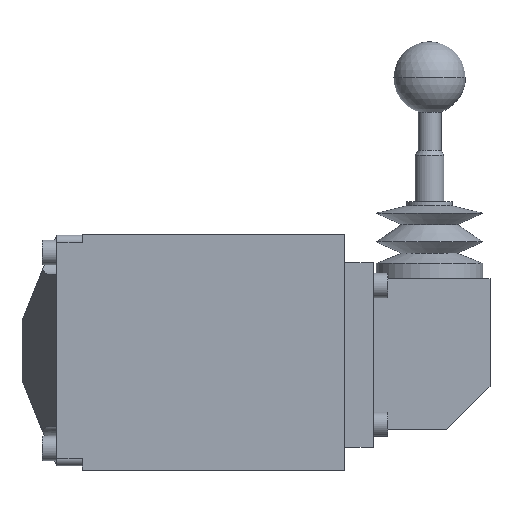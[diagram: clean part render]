
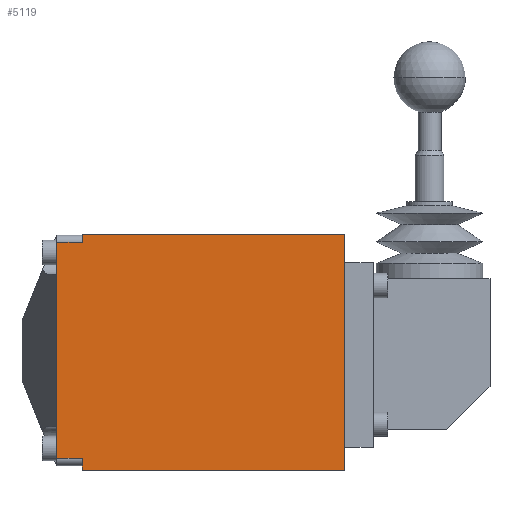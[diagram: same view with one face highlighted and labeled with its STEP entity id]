
A CAD part, front view. The second image highlights one B-rep face of the part: STEP entity #5119.
In plain terms, the highlighted planar face has unit normal (0, -1, 0).
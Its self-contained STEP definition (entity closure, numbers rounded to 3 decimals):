
#58 = EDGE_CURVE ( 'NONE', #5609, #4784, #4132, .T. ) ;
#90 = CARTESIAN_POINT ( 'NONE',  ( -940.424, 550.692, 4.1 ) ) ;
#113 = CARTESIAN_POINT ( 'NONE',  ( -949.424, 550.692, 1.6 ) ) ;
#129 = CARTESIAN_POINT ( 'NONE',  ( -949.424, 550.692, 68.1 ) ) ;
#218 = ORIENTED_EDGE ( 'NONE', *, *, #58, .T. ) ;
#284 = CARTESIAN_POINT ( 'NONE',  ( -940.424, 550.692, 79.1 ) ) ;
#403 = EDGE_CURVE ( 'NONE', #4784, #691, #4935, .T. ) ;
#420 = LINE ( 'NONE', #113, #734 ) ;
#563 = VECTOR ( 'NONE', #833, 1000. ) ;
#691 = VERTEX_POINT ( 'NONE', #2563 ) ;
#709 = LINE ( 'NONE', #3103, #563 ) ;
#729 = EDGE_CURVE ( 'NONE', #904, #5182, #3216, .T. ) ;
#734 = VECTOR ( 'NONE', #5015, 1000. ) ;
#748 = VECTOR ( 'NONE', #4656, 1000. ) ;
#833 = DIRECTION ( 'NONE',  ( 1., 0., 0. ) ) ;
#904 = VERTEX_POINT ( 'NONE', #284 ) ;
#948 = CARTESIAN_POINT ( 'NONE',  ( -940.424, 550.692, 82. ) ) ;
#953 = VECTOR ( 'NONE', #2275, 1000. ) ;
#987 = VERTEX_POINT ( 'NONE', #1422 ) ;
#1169 = DIRECTION ( 'NONE',  ( 0., 0., -1. ) ) ;
#1227 = EDGE_CURVE ( 'NONE', #691, #4184, #5239, .T. ) ;
#1299 = DIRECTION ( 'NONE',  ( 1., 0., 0. ) ) ;
#1307 = ORIENTED_EDGE ( 'NONE', *, *, #729, .T. ) ;
#1318 = CARTESIAN_POINT ( 'NONE',  ( -940.424, 550.692, 0. ) ) ;
#1422 = CARTESIAN_POINT ( 'NONE',  ( -949.424, 550.692, 15.1 ) ) ;
#1439 = EDGE_CURVE ( 'NONE', #1975, #4184, #3168, .T. ) ;
#1495 = ORIENTED_EDGE ( 'NONE', *, *, #3285, .F. ) ;
#1517 = FACE_OUTER_BOUND ( 'NONE', #5138, .T. ) ;
#1711 = ORIENTED_EDGE ( 'NONE', *, *, #5064, .F. ) ;
#1784 = EDGE_CURVE ( 'NONE', #5755, #904, #5103, .T. ) ;
#1814 = DIRECTION ( 'NONE',  ( 0., 1., 0. ) ) ;
#1876 = CARTESIAN_POINT ( 'NONE',  ( -949.424, 550.692, 79.1 ) ) ;
#1975 = VERTEX_POINT ( 'NONE', #3653 ) ;
#2248 = VERTEX_POINT ( 'NONE', #129 ) ;
#2256 = CARTESIAN_POINT ( 'NONE',  ( -940.424, 550.692, 79.1 ) ) ;
#2273 = VECTOR ( 'NONE', #2510, 1000. ) ;
#2275 = DIRECTION ( 'NONE',  ( -1., 0., 0. ) ) ;
#2301 = LINE ( 'NONE', #5413, #5726 ) ;
#2361 = ORIENTED_EDGE ( 'NONE', *, *, #1784, .T. ) ;
#2510 = DIRECTION ( 'NONE',  ( 0., 0., -1. ) ) ;
#2516 = CARTESIAN_POINT ( 'NONE',  ( -849.424, 550.692, 82. ) ) ;
#2563 = CARTESIAN_POINT ( 'NONE',  ( -940.424, 550.692, 0. ) ) ;
#2706 = ORIENTED_EDGE ( 'NONE', *, *, #1439, .F. ) ;
#2734 = AXIS2_PLACEMENT_3D ( 'NONE', #3548, #1814, #4825 ) ;
#2815 = CARTESIAN_POINT ( 'NONE',  ( -949.424, 550.692, 4.1 ) ) ;
#2844 = VECTOR ( 'NONE', #1169, 1000. ) ;
#2939 = CARTESIAN_POINT ( 'NONE',  ( -940.424, 550.692, 82. ) ) ;
#3103 = CARTESIAN_POINT ( 'NONE',  ( -940.424, 550.692, 82. ) ) ;
#3168 = LINE ( 'NONE', #2516, #2273 ) ;
#3216 = LINE ( 'NONE', #2256, #953 ) ;
#3285 = EDGE_CURVE ( 'NONE', #2248, #5182, #5147, .T. ) ;
#3548 = CARTESIAN_POINT ( 'NONE',  ( -940.424, 550.692, 82. ) ) ;
#3653 = CARTESIAN_POINT ( 'NONE',  ( -849.424, 550.692, 82. ) ) ;
#3673 = CARTESIAN_POINT ( 'NONE',  ( -849.424, 550.692, 0. ) ) ;
#3707 = DIRECTION ( 'NONE',  ( 0., 0., 1. ) ) ;
#3744 = EDGE_CURVE ( 'NONE', #987, #2248, #420, .T. ) ;
#3912 = ORIENTED_EDGE ( 'NONE', *, *, #1227, .T. ) ;
#3997 = DIRECTION ( 'NONE',  ( 0., 0., -1. ) ) ;
#4079 = VECTOR ( 'NONE', #1299, 1000. ) ;
#4123 = VECTOR ( 'NONE', #4197, 1000. ) ;
#4132 = LINE ( 'NONE', #5608, #748 ) ;
#4184 = VERTEX_POINT ( 'NONE', #3673 ) ;
#4197 = DIRECTION ( 'NONE',  ( 0., 0., 1. ) ) ;
#4390 = PLANE ( 'NONE',  #2734 ) ;
#4617 = ORIENTED_EDGE ( 'NONE', *, *, #403, .T. ) ;
#4656 = DIRECTION ( 'NONE',  ( 1., 0., 0. ) ) ;
#4768 = EDGE_CURVE ( 'NONE', #5609, #987, #2301, .T. ) ;
#4784 = VERTEX_POINT ( 'NONE', #90 ) ;
#4787 = ORIENTED_EDGE ( 'NONE', *, *, #4768, .F. ) ;
#4796 = VECTOR ( 'NONE', #3997, 1000. ) ;
#4825 = DIRECTION ( 'NONE',  ( 0., 0., 1. ) ) ;
#4935 = LINE ( 'NONE', #5197, #4796 ) ;
#5015 = DIRECTION ( 'NONE',  ( 0., 0., 1. ) ) ;
#5064 = EDGE_CURVE ( 'NONE', #5755, #1975, #709, .T. ) ;
#5083 = CARTESIAN_POINT ( 'NONE',  ( -949.424, 550.692, 81.6 ) ) ;
#5103 = LINE ( 'NONE', #948, #2844 ) ;
#5119 = ADVANCED_FACE ( 'NONE', ( #1517 ), #4390, .F. ) ;
#5138 = EDGE_LOOP ( 'NONE', ( #2361, #1307, #1495, #5588, #4787, #218, #4617, #3912, #2706, #1711 ) ) ;
#5147 = LINE ( 'NONE', #5083, #4123 ) ;
#5182 = VERTEX_POINT ( 'NONE', #1876 ) ;
#5197 = CARTESIAN_POINT ( 'NONE',  ( -940.424, 550.692, 82. ) ) ;
#5239 = LINE ( 'NONE', #1318, #4079 ) ;
#5413 = CARTESIAN_POINT ( 'NONE',  ( -949.424, 550.692, 1.6 ) ) ;
#5588 = ORIENTED_EDGE ( 'NONE', *, *, #3744, .F. ) ;
#5608 = CARTESIAN_POINT ( 'NONE',  ( -940.424, 550.692, 4.1 ) ) ;
#5609 = VERTEX_POINT ( 'NONE', #2815 ) ;
#5726 = VECTOR ( 'NONE', #3707, 1000. ) ;
#5755 = VERTEX_POINT ( 'NONE', #2939 ) ;
